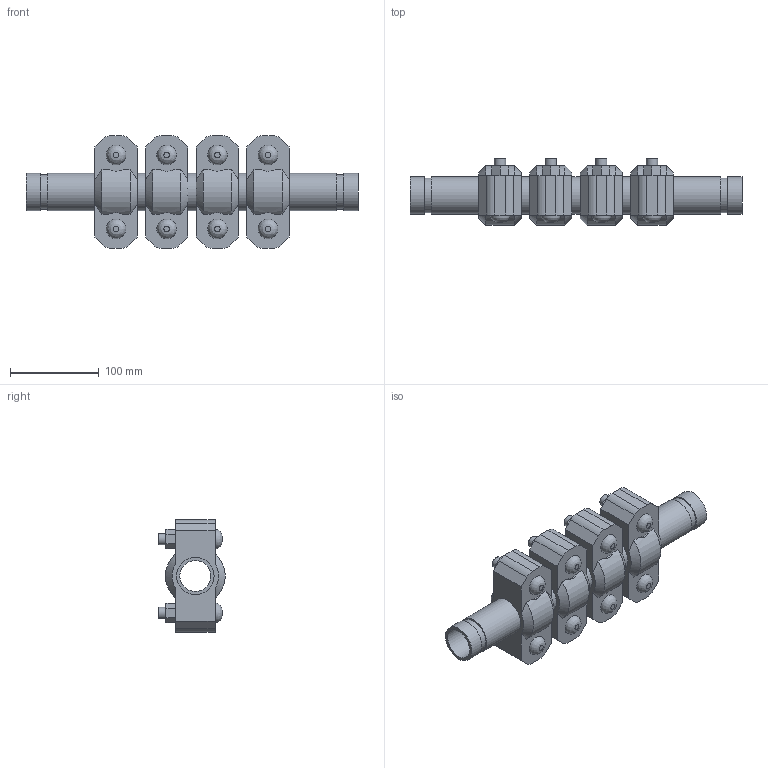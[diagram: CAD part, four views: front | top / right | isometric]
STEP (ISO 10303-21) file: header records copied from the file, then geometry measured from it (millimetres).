
FILE_DESCRIPTION(/* description */ ('VIC EXPANSION JOINT 4 COUPLINGS COMPRESSED STYLE 155 (OGS)','CAx-IF Rec.Pracs.---Representation and Presentation of Product Manufacturing Information (PMI)---4.0---2014-10-13'),/* implementation_level */ '2;1');
FILE_NAME(/* name */ 'C:\Users\kkamble\AppData\Roaming\Autodesk\ApplicationPlugins\Victaulic.Temp\A318\Victaulic_IPS_Expansion Joint_Compressed_4 Couplings_Style 155 (OGS)_1.25 (32).stp',/* time_stamp */ '2021-06-27T00:27:07+02:00',/* author */ ('kkamble'),/* organization */ ('Victaulic'),/* preprocessor_version */ 'ST-DEVELOPER v17.2',/* originating_system */ 'Autodesk Inventor 2019',/* authorisation */ '');
FILE_SCHEMA (('AP242_MANAGED_MODEL_BASED_3D_ENGINEERING_MIM_LF { 1 0 10303 442 1 1 4 }'));
Length unit declared in the file: inch
Products named in the file (4): 155-01.25; Nipple-01.25; Nipple-01.25_1; 077-01.25
Assembly tree (9 placements, depth 2):
  155-01.25
    Nipple-01.25  x2
    Nipple-01.25_1  x3
    077-01.25  x4
Bounding box: 374.65 x 74.93 x 127 mm (x, y, z)
Volume: 1066629.2 mm3; surface area: 262368.6 mm2
Topology: 9 solids, 17 shells, 288 faces, 706 edges, 496 vertices
Faces by surface type: plane 166, cylinder 98, cone 16, bspline 8
Full cylindrical faces by diameter (mm): 12.7 x16, 14.605 x8, 35.052 x5, 38.989 x10, 42.164 x19
Entity records: 2859 total; most frequent: CARTESIAN_POINT 539, DIRECTION 463, ORIENTED_EDGE 398, EDGE_CURVE 199, AXIS2_PLACEMENT_3D 184, VERTEX_POINT 142, EDGE_LOOP 105, LINE 95
